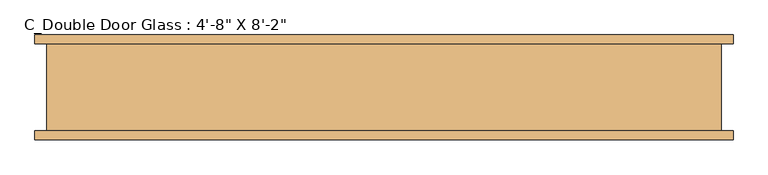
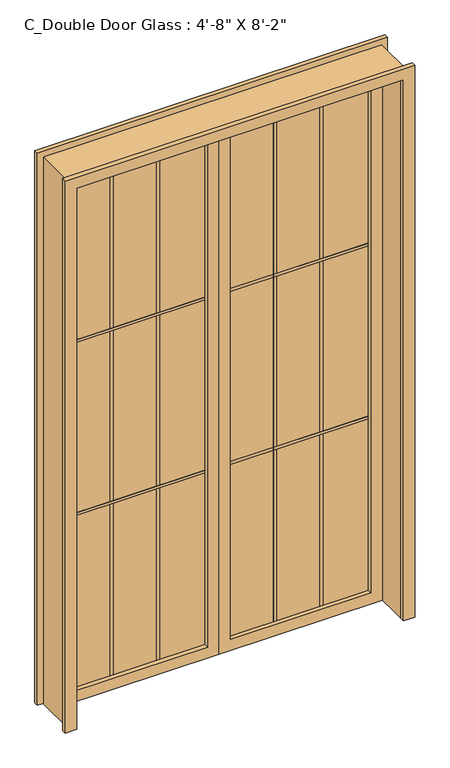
"""IFC4 building model written with IfcOpenShell, lengths in millimetres: door geometry."""

from ifc_helpers import new_model, si_unit, frame, origin, place, context, project, spatial, polyline, outline, extrude, source, transform, mapped, element, save


def door_db3eb460(model_context):
    return source(origin(), model_context, "Body", "SweptSolid", [
        extrude(outline(polyline([(660.4, 63.5), (50.8, 63.5), (50.8, 76.2), (660.4, 76.2), (660.4, 63.5)])), frame((0.0, 0.0, 1636.1833333), z_axis=(0.0, 0.0, 1.0), x_axis=(1.0, 0.0, 0.0)), (0.0, 0.0, 1.0), 12.7),
        extrude(outline(polyline([(660.4, 63.5), (50.8, 63.5), (50.8, 76.2), (660.4, 76.2), (660.4, 63.5)])), frame((0.0, 0.0, 840.3166667), z_axis=(0.0, 0.0, 1.0), x_axis=(1.0, 0.0, 0.0)), (0.0, 0.0, 1.0), 12.7),
        extrude(outline(polyline([(463.55, 63.5), (450.85, 63.5), (450.85, 76.2), (463.55, 76.2), (463.55, 63.5)])), frame((0.0, 0.0, 50.8), z_axis=(0.0, 0.0, 1.0), x_axis=(1.0, 0.0, 0.0)), (0.0, 0.0, 1.0), 2387.6),
        extrude(outline(polyline([(260.35, 63.5), (247.65, 63.5), (247.65, 76.2), (260.35, 76.2), (260.35, 63.5)])), frame((0.0, 0.0, 50.8), z_axis=(0.0, 0.0, 1.0), x_axis=(1.0, 0.0, 0.0)), (0.0, 0.0, 1.0), 2387.6),
        extrude(outline(polyline([(660.4, 63.5), (50.8, 63.5), (50.8, 76.2), (660.4, 76.2), (660.4, 63.5)])), frame((0.0, 0.0, 50.8), z_axis=(0.0, 0.0, 1.0), x_axis=(1.0, 0.0, 0.0)), (0.0, 0.0, 1.0), 2387.6),
        extrude(outline(polyline([(2489.2, 0.0), (0.0, 0.0), (0.0, 711.2), (2489.2, 711.2), (2489.2, 0.0)]), holes=[polyline([(2438.4, 660.4), (50.8, 660.4), (50.8, 50.8), (2438.4, 50.8), (2438.4, 660.4)])]), frame((0.0, 44.45, 0.0), z_axis=(0.0, 1.0, 0.0), x_axis=(0.0, 0.0, 1.0)), (0.0, 0.0, 1.0), 50.8),
        extrude(outline(polyline([(-660.4, 63.5), (-660.4, 76.2), (-50.8, 76.2), (-50.8, 63.5), (-660.4, 63.5)])), frame((0.0, 0.0, 1636.1833333), z_axis=(0.0, 0.0, 1.0), x_axis=(1.0, 0.0, 0.0)), (0.0, 0.0, 1.0), 12.7),
        extrude(outline(polyline([(-660.4, 63.5), (-660.4, 76.2), (-50.8, 76.2), (-50.8, 63.5), (-660.4, 63.5)])), frame((0.0, 0.0, 840.3166667), z_axis=(0.0, 0.0, 1.0), x_axis=(1.0, 0.0, 0.0)), (0.0, 0.0, 1.0), 12.7),
        extrude(outline(polyline([(-463.55, 63.5), (-463.55, 76.2), (-450.85, 76.2), (-450.85, 63.5), (-463.55, 63.5)])), frame((0.0, 0.0, 50.8), z_axis=(0.0, 0.0, 1.0), x_axis=(1.0, 0.0, 0.0)), (0.0, 0.0, 1.0), 2387.6),
        extrude(outline(polyline([(-260.35, 63.5), (-260.35, 76.2), (-247.65, 76.2), (-247.65, 63.5), (-260.35, 63.5)])), frame((0.0, 0.0, 50.8), z_axis=(0.0, 0.0, 1.0), x_axis=(1.0, 0.0, 0.0)), (0.0, 0.0, 1.0), 2387.6),
        extrude(outline(polyline([(-660.4, 63.5), (-660.4, 76.2), (-50.8, 76.2), (-50.8, 63.5), (-660.4, 63.5)])), frame((0.0, 0.0, 50.8), z_axis=(0.0, 0.0, 1.0), x_axis=(1.0, 0.0, 0.0)), (0.0, 0.0, 1.0), 2387.6),
        extrude(outline(polyline([(2489.2, 0.0), (2489.2, -711.2), (0.0, -711.2), (0.0, 0.0), (2489.2, 0.0)]), holes=[polyline([(2438.4, -660.4), (2438.4, -50.8), (50.8, -50.8), (50.8, -660.4), (2438.4, -660.4)])]), frame((0.0, 44.45, 0.0), z_axis=(0.0, 1.0, 0.0), x_axis=(0.0, 0.0, 1.0)), (0.0, 0.0, 1.0), 50.8),
        extrude(outline(polyline([(2489.2, -711.2), (2489.2, 711.2), (0.0, 711.2), (0.0, 762.0), (2540.0, 762.0), (2540.0, -762.0), (0.0, -762.0), (0.0, -711.2), (2489.2, -711.2)])), frame((0.0, 95.25, 0.0), z_axis=(0.0, 1.0, 0.0), x_axis=(0.0, 0.0, 1.0)), (0.0, 0.0, 1.0), 19.05),
        extrude(outline(polyline([(2489.2, -711.2), (2489.2, 711.2), (0.0, 711.2), (0.0, 762.0), (2540.0, 762.0), (2540.0, -762.0), (0.0, -762.0), (0.0, -711.2), (2489.2, -711.2)])), frame((0.0, -114.3, 0.0), z_axis=(0.0, 1.0, 0.0), x_axis=(0.0, 0.0, 1.0)), (0.0, 0.0, 1.0), 19.05),
        extrude(outline(polyline([(0.0, -711.2), (2489.2, -711.2), (2489.2, 711.2), (0.0, 711.2), (0.0, 736.6), (2514.6, 736.6), (2514.6, -736.6), (0.0, -736.6), (0.0, -711.2)])), frame((0.0, -95.25, 0.0), z_axis=(0.0, 1.0, 0.0), x_axis=(0.0, 0.0, 1.0)), (0.0, 0.0, 1.0), 190.5),
    ])


if __name__ == "__main__":
    model = new_model("IFC4")
    model_context = context("Model", 3, world=origin())
    ifc_project = project(units=[si_unit("LENGTHUNIT", "METRE", prefix="MILLI")], contexts=[model_context])
    site = spatial("IfcSite", under=ifc_project)
    building = spatial("IfcBuilding", under=site)
    placement = place(None, origin())
    door_shape = door_db3eb460(model_context)
    element("IfcDoor", 1, ObjectType="C_Double Door Glass : 4'-8\" X 8'-2\"", at=placement, inside=building, context=model_context, shape_type="MappedRepresentation", body=[
        mapped(door_shape, transform((0.0, 0.0, 0.0), x_axis=(1.0, 0.0, 0.0), y_axis=(0.0, 1.0, 0.0), z_axis=(0.0, 0.0, 1.0))),
    ])
    save(model, "model.ifc")
